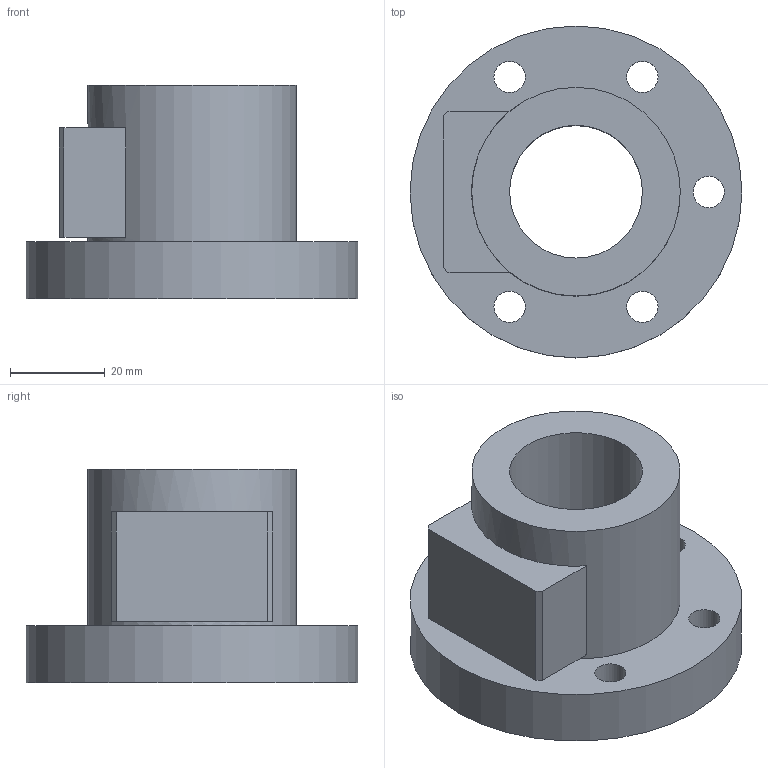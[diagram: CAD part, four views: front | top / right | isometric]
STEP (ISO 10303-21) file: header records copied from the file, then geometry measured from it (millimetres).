
FILE_DESCRIPTION(/* description */ (''),/* implementation_level */ '2;1');
FILE_NAME(/* name */ '28-5B1',/* time_stamp */ '2006-07-31T10:01:40+08:00',/* author */ (''),/* organization */ (''),/* preprocessor_version */ 'ST-DEVELOPER v9',/* originating_system */ 'UGS - NX 4.0',/* authorisation */ '');
FILE_SCHEMA (('CONFIG_CONTROL_DESIGN'));
Length unit declared in the file: millimetre
Products named in the file (1): 28-5B1
Bounding box: 70 x 70 x 45 mm (x, y, z)
Volume: 71202.7 mm3; surface area: 20054.9 mm2
Topology: 1 solids, 1 shells, 28 faces, 61 edges, 42 vertices
Faces by surface type: plane 15, cylinder 13
Full cylindrical faces by diameter (mm): 6.6 x5, 11 x5, 28 x1, 44 x1, 70 x1
Entity records: 794 total; most frequent: DIRECTION 130, CARTESIAN_POINT 111, ORIENTED_EDGE 88, EDGE_LOOP 60, AXIS2_PLACEMENT_3D 57, FACE_BOUND 45, EDGE_CURVE 44, VERTEX_POINT 38
